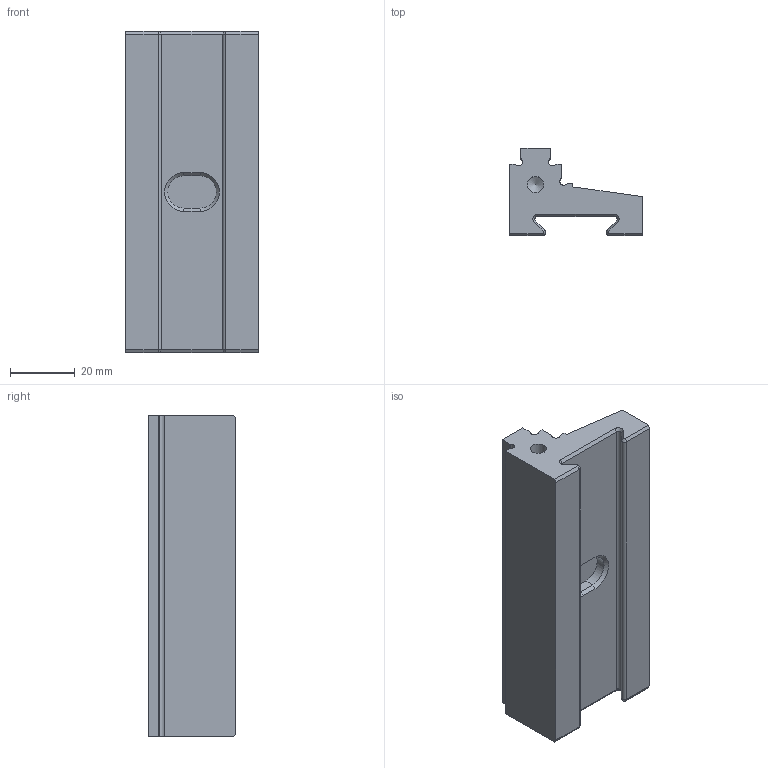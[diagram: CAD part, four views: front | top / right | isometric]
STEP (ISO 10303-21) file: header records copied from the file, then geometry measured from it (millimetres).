
FILE_DESCRIPTION (( 'STEP AP203' ), '1' );
FILE_NAME ('STEP-3D-6921564010000.STEP', '2024-11-21T10:18:05', ( '' ), ( '' ), 'SwSTEP 2.0', 'SolidWorks 2021', '' );
FILE_SCHEMA (( 'CONFIG_CONTROL_DESIGN' ));
Length unit declared in the file: millimetre
Products named in the file (1): STEP-3D-6921564010000
Bounding box: 41 x 27 x 99.4 mm (x, y, z)
Volume: 59116.9 mm3; surface area: 17204.1 mm2
Topology: 1 solids, 1 shells, 62 faces, 155 edges, 96 vertices
Faces by surface type: plane 39, cone 12, cylinder 11
Full cylindrical faces by diameter (mm): 5 x2
Entity records: 1854 total; most frequent: DIRECTION 307, CARTESIAN_POINT 306, ORIENTED_EDGE 298, EDGE_CURVE 149, VECTOR 117, LINE 117, AXIS2_PLACEMENT_3D 95, VERTEX_POINT 94
